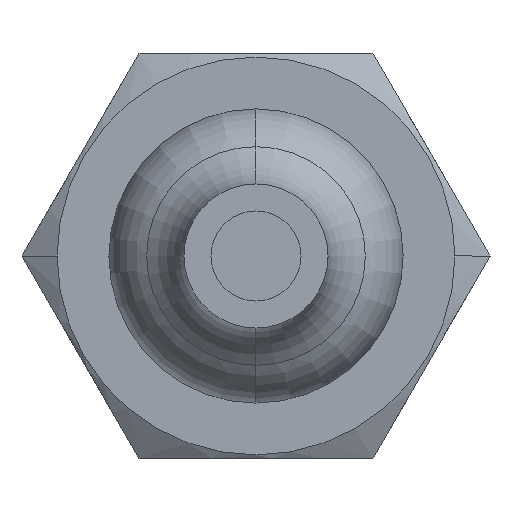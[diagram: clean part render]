
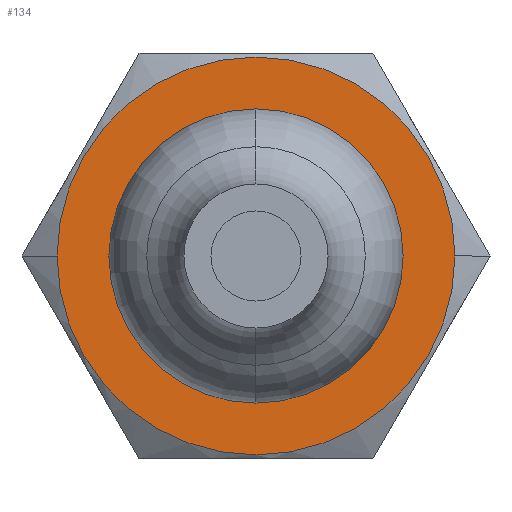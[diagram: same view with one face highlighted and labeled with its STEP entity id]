
A CAD part, left-side view. The second image highlights one B-rep face of the part: STEP entity #134.
In plain terms, the highlighted planar face has unit normal (-1, 0, 0).
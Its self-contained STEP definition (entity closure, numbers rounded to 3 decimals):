
#134 = ADVANCED_FACE( '', ( #270, #271 ), #272, .T. );
#270 = FACE_BOUND( '', #426, .T. );
#271 = FACE_OUTER_BOUND( '', #427, .T. );
#272 = PLANE( '', #428 );
#426 = EDGE_LOOP( '', ( #915, #916 ) );
#427 = EDGE_LOOP( '', ( #917, #918 ) );
#428 = AXIS2_PLACEMENT_3D( '', #919, #920, #921 );
#915 = ORIENTED_EDGE( '', *, *, #1128, .F. );
#916 = ORIENTED_EDGE( '', *, *, #1168, .F. );
#917 = ORIENTED_EDGE( '', *, *, #1085, .T. );
#918 = ORIENTED_EDGE( '', *, *, #1194, .T. );
#919 = CARTESIAN_POINT( '', ( -59.999, 10.625, 0. ) );
#920 = DIRECTION( '', ( -1., 0., 0. ) );
#921 = DIRECTION( '', ( 0., 1., 0. ) );
#1085 = EDGE_CURVE( '', #1294, #1302, #1304, .T. );
#1128 = EDGE_CURVE( '', #1378, #1381, #1382, .T. );
#1168 = EDGE_CURVE( '', #1381, #1378, #1447, .T. );
#1194 = EDGE_CURVE( '', #1302, #1294, #1478, .T. );
#1294 = VERTEX_POINT( '', #1590 );
#1302 = VERTEX_POINT( '', #1626 );
#1304 = CIRCLE( '', #1629, 13.25 );
#1378 = VERTEX_POINT( '', #1748 );
#1381 = VERTEX_POINT( '', #1752 );
#1382 = CIRCLE( '', #1753, 8. );
#1447 = CIRCLE( '', #1843, 8. );
#1478 = CIRCLE( '', #1934, 13.25 );
#1590 = CARTESIAN_POINT( '', ( -59.999, 13.25, 0. ) );
#1626 = CARTESIAN_POINT( '', ( -59.999, -13.25, 0. ) );
#1629 = AXIS2_PLACEMENT_3D( '', #2068, #2069, #2070 );
#1748 = CARTESIAN_POINT( '', ( -59.999, 8., 0. ) );
#1752 = CARTESIAN_POINT( '', ( -59.999, -8., 0. ) );
#1753 = AXIS2_PLACEMENT_3D( '', #2150, #2151, #2152 );
#1843 = AXIS2_PLACEMENT_3D( '', #2220, #2221, #2222 );
#1934 = AXIS2_PLACEMENT_3D( '', #2268, #2269, #2270 );
#2068 = CARTESIAN_POINT( '', ( -59.999, 0., 0. ) );
#2069 = DIRECTION( '', ( -1., 0., 0. ) );
#2070 = DIRECTION( '', ( 0., 1., 0. ) );
#2150 = CARTESIAN_POINT( '', ( -59.999, 0., 0. ) );
#2151 = DIRECTION( '', ( -1., 0., 0. ) );
#2152 = DIRECTION( '', ( 0., 1., 0. ) );
#2220 = CARTESIAN_POINT( '', ( -59.999, 0., 0. ) );
#2221 = DIRECTION( '', ( -1., 0., 0. ) );
#2222 = DIRECTION( '', ( 0., 1., 0. ) );
#2268 = CARTESIAN_POINT( '', ( -59.999, 0., 0. ) );
#2269 = DIRECTION( '', ( -1., 0., 0. ) );
#2270 = DIRECTION( '', ( 0., 1., 0. ) );
